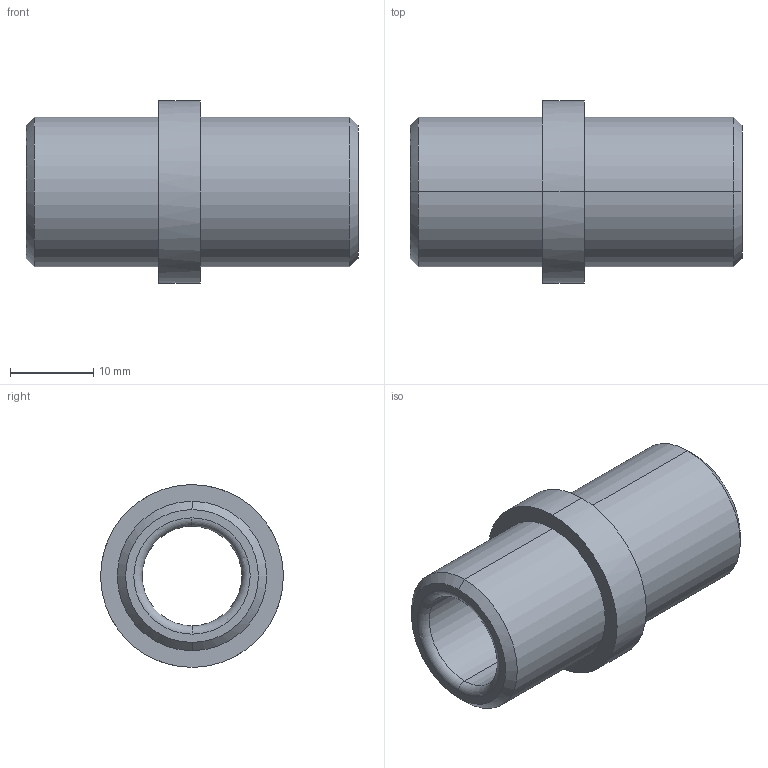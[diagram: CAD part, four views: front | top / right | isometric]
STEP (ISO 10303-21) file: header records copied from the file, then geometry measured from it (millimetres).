
FILE_DESCRIPTION(('CATIA V5 STEP Exchange'),'2;1');
FILE_NAME('C:\Users\Utente\Desktop\IO LAVORO\3D X SITO CF\X SITO\PLASTICA\355\355-12X40.stp','2021-04-21T08:58:53+00:00',('none'),('none'),'CATIA Version 5 Release 20 GA (IN-10)','CATIA V5 STEP AP203','none');
FILE_SCHEMA(('CONFIG_CONTROL_DESIGN'));
Length unit declared in the file: millimetre
Products named in the file (1): 355-12X40
Bounding box: 40 x 22 x 22 mm (x, y, z)
Volume: 6211.9 mm3; surface area: 4266.5 mm2
Topology: 1 solids, 1 shells, 20 faces, 64 edges, 48 vertices
Faces by surface type: cylinder 8, plane 4, cone 4, torus 4
Entity records: 906 total; most frequent: CARTESIAN_POINT 301, ORIENTED_EDGE 128, DIRECTION 92, EDGE_CURVE 64, AXIS2_PLACEMENT_3D 61, VERTEX_POINT 48, CIRCLE 40, EDGE_LOOP 24
